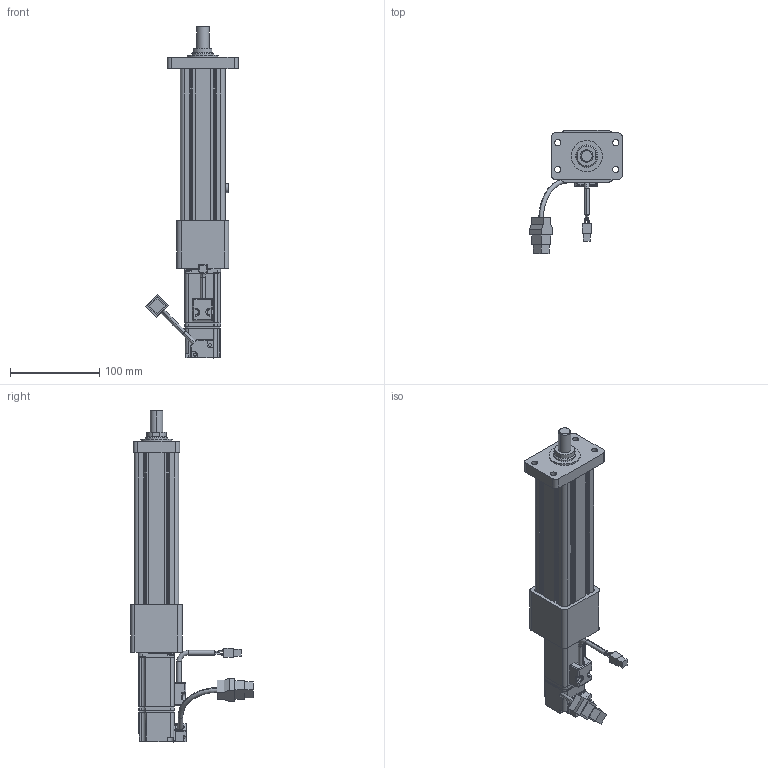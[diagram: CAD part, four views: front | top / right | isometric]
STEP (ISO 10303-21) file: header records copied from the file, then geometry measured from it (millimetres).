
FILE_DESCRIPTION (( 'STEP AP203' ), '1' );
FILE_NAME ('S1眻盄ヶ楊擘假蚾.STEP', '2024-05-27T05:07:07', ( '' ), ( '' ), 'SwSTEP 2.0', 'SolidWorks 2018', '' );
FILE_SCHEMA (( 'CONFIG_CONTROL_DESIGN' ));
Length unit declared in the file: millimetre
Products named in the file (3): S1眻盄ヶ楊擘假蚾; ECMA-CX0401ES-40框號系列機種-100W低慣量系列; S1眻盄ヶ楊擘
Assembly tree (2 placements, depth 2):
  S1眻盄ヶ楊擘假蚾
    S1眻盄ヶ楊擘
    ECMA-CX0401ES-40框號系列機種-100W低慣量系列
Bounding box: 104.14 x 137.63 x 371.6 mm (x, y, z)
Volume: 568982.3 mm3; surface area: 151740.9 mm2
Topology: 2 solids, 16 shells, 668 faces, 1639 edges, 1022 vertices
Faces by surface type: plane 310, cylinder 248, cone 46, torus 31, sphere 17, bspline 16
Entity records: 22653 total; most frequent: CARTESIAN_POINT 6788, ORIENTED_EDGE 3274, DIRECTION 3160, EDGE_CURVE 1637, AXIS2_PLACEMENT_3D 1108, VERTEX_POINT 1022, VECTOR 944, LINE 944
